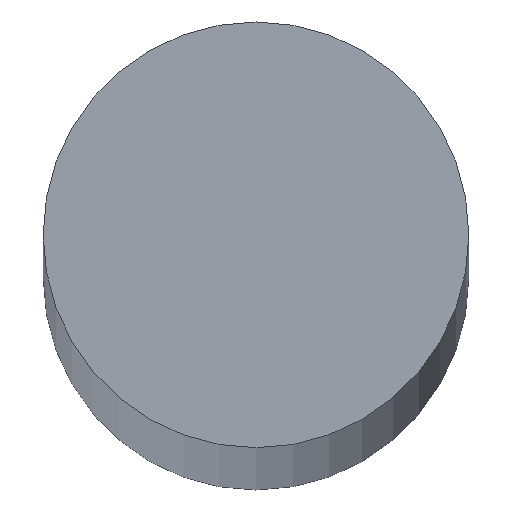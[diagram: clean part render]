
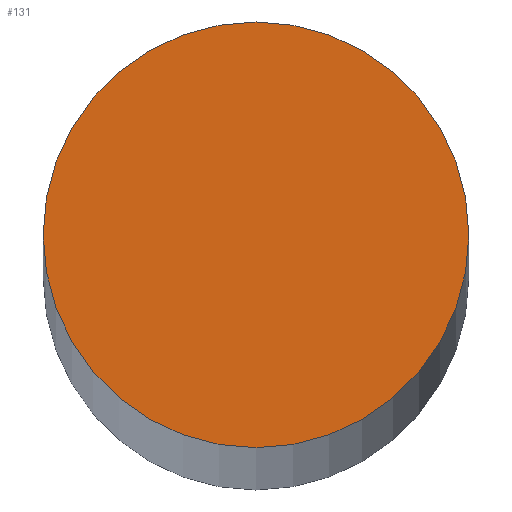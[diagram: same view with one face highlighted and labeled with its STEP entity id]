
A CAD part, top view. The second image highlights one B-rep face of the part: STEP entity #131.
In plain terms, the highlighted planar face has unit normal (0, 0, 1).
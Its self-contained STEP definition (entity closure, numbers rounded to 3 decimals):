
#6 = CARTESIAN_POINT ( 'NONE',  ( 0., 0., 341.5 ) ) ;
#8 = CARTESIAN_POINT ( 'NONE',  ( 0., 0., 341.5 ) ) ;
#9 = DIRECTION ( 'NONE',  ( 0., 0., 1. ) ) ;
#10 = DIRECTION ( 'NONE',  ( 1., 0., 0. ) ) ;
#12 = PLANE ( 'NONE',  #68 ) ;
#19 = DIRECTION ( 'NONE',  ( 0., 0., 1. ) ) ;
#20 = DIRECTION ( 'NONE',  ( 1., 0., 0. ) ) ;
#28 = CARTESIAN_POINT ( 'NONE',  ( 0., 0., 341.5 ) ) ;
#34 = DIRECTION ( 'NONE',  ( 0., 0., 1. ) ) ;
#35 = DIRECTION ( 'NONE',  ( 1., 0., 0. ) ) ;
#40 = CARTESIAN_POINT ( 'NONE',  ( 6., 0., 341.5 ) ) ;
#41 = CARTESIAN_POINT ( 'NONE',  ( -6., 0., 341.5 ) ) ;
#66 = EDGE_CURVE ( 'NONE', #138, #139, #111, .T. ) ;
#68 = AXIS2_PLACEMENT_3D ( 'NONE', #28, #34, #35 ) ;
#71 = AXIS2_PLACEMENT_3D ( 'NONE', #8, #9, #10 ) ;
#76 = AXIS2_PLACEMENT_3D ( 'NONE', #6, #19, #20 ) ;
#79 = EDGE_CURVE ( 'NONE', #139, #138, #116, .T. ) ;
#90 = EDGE_LOOP ( 'NONE', ( #97, #96 ) ) ;
#96 = ORIENTED_EDGE ( 'NONE', *, *, #66, .T. ) ;
#97 = ORIENTED_EDGE ( 'NONE', *, *, #79, .T. ) ;
#111 = CIRCLE ( 'NONE', #71, 6. ) ;
#116 = CIRCLE ( 'NONE', #76, 6. ) ;
#122 = FACE_OUTER_BOUND ( 'NONE', #90, .T. ) ;
#131 = ADVANCED_FACE ( 'NONE', ( #122 ), #12, .T. ) ;
#138 = VERTEX_POINT ( 'NONE', #40 ) ;
#139 = VERTEX_POINT ( 'NONE', #41 ) ;
